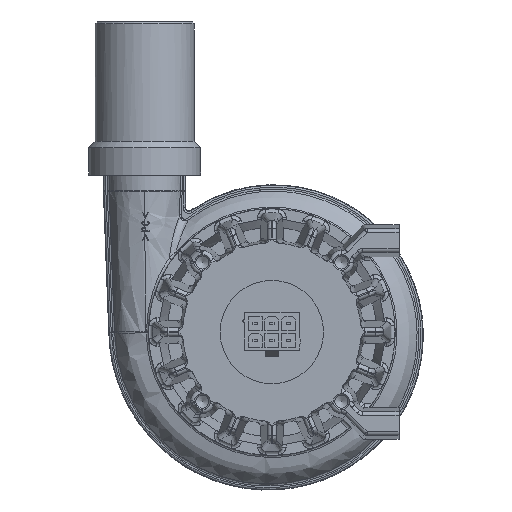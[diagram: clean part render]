
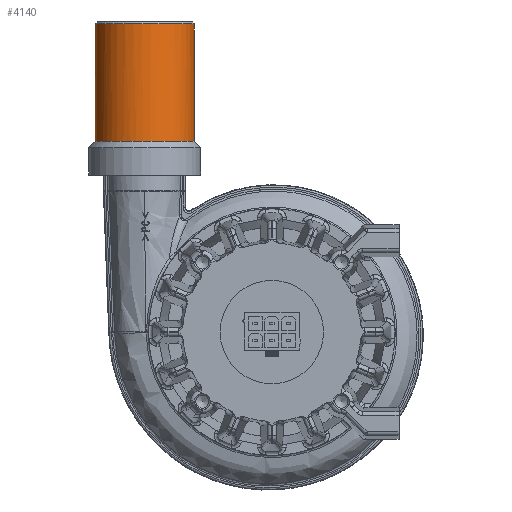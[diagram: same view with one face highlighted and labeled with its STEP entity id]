
A CAD part, front view. The second image highlights one B-rep face of the part: STEP entity #4140.
In plain terms, the highlighted cylindrical face has radius 12.5 mm (diameter 25 mm), a full revolution.
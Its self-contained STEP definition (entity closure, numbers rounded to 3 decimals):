
#1629=B_SPLINE_CURVE_WITH_KNOTS('',3,(#41466,#41467,#41468,#41469,#41470,
#41471,#41472,#41473,#41474,#41475,#41476,#41477,#41478,#41479,#41480,#41481,
#41482,#41483),.UNSPECIFIED.,.T.,.F.,(2,2,2,2,2,2,2,2,2,2,2),(-0.125,0.,
0.125,0.25,0.375,0.5,0.625,0.75,0.875,1.,1.125),.UNSPECIFIED.);
#2706=CYLINDRICAL_SURFACE('',#22251,12.5);
#3111=CIRCLE('',#22240,12.5);
#3515=FACE_BOUND('',#7196,.T.);
#3516=FACE_BOUND('',#7197,.T.);
#4140=ADVANCED_FACE('',(#3515,#3516),#2706,.T.);
#7196=EDGE_LOOP('',(#10602));
#7197=EDGE_LOOP('',(#10603));
#10602=ORIENTED_EDGE('',*,*,#17800,.T.);
#10603=ORIENTED_EDGE('',*,*,#17794,.T.);
#15325=VERTEX_POINT('',#41450);
#15331=VERTEX_POINT('',#41484);
#17794=EDGE_CURVE('',#15325,#15325,#3111,.T.);
#17800=EDGE_CURVE('',#15331,#15331,#1629,.T.);
#22240=AXIS2_PLACEMENT_3D('',#41449,#24674,#24675);
#22251=AXIS2_PLACEMENT_3D('',#41485,#24696,#24697);
#24674=DIRECTION('',(0.,0.,-1.));
#24675=DIRECTION('',(-0.547,-0.837,0.));
#24696=DIRECTION('',(0.,0.,1.));
#24697=DIRECTION('',(0.547,0.837,0.));
#41449=CARTESIAN_POINT('',(51.363,79.55,37.646));
#41450=CARTESIAN_POINT('',(44.526,69.085,37.646));
#41466=CARTESIAN_POINT('',(60.939,88.225,8.146));
#41467=CARTESIAN_POINT('',(55.46,91.804,8.146));
#41468=CARTESIAN_POINT('',(52.,92.456,8.146));
#41469=CARTESIAN_POINT('',(45.595,91.112,8.146));
#41470=CARTESIAN_POINT('',(42.688,89.126,8.146));
#41471=CARTESIAN_POINT('',(39.108,83.647,8.146));
#41472=CARTESIAN_POINT('',(38.457,80.188,8.146));
#41473=CARTESIAN_POINT('',(39.8,73.782,8.146));
#41474=CARTESIAN_POINT('',(41.786,70.875,8.146));
#41475=CARTESIAN_POINT('',(47.266,67.296,8.146));
#41476=CARTESIAN_POINT('',(50.725,66.644,8.146));
#41477=CARTESIAN_POINT('',(57.131,67.988,8.146));
#41478=CARTESIAN_POINT('',(60.038,69.974,8.146));
#41479=CARTESIAN_POINT('',(63.617,75.453,8.146));
#41480=CARTESIAN_POINT('',(64.268,78.912,8.146));
#41481=CARTESIAN_POINT('',(62.925,85.318,8.146));
#41482=CARTESIAN_POINT('',(60.939,88.225,8.146));
#41483=CARTESIAN_POINT('',(55.46,91.804,8.146));
#41484=CARTESIAN_POINT('',(58.2,90.015,8.146));
#41485=CARTESIAN_POINT('',(51.363,79.55,5.646));
